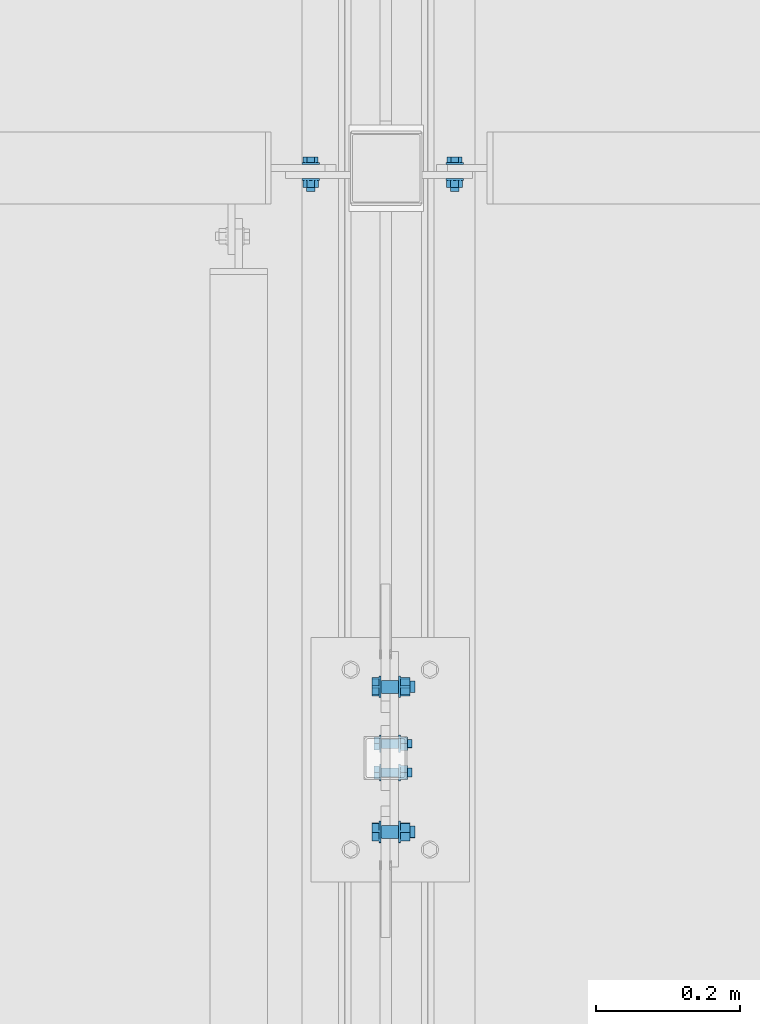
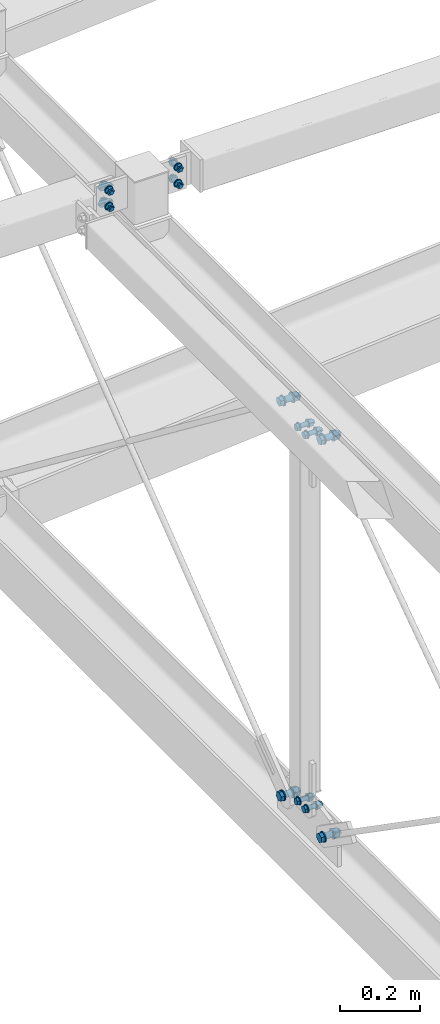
# One storey, part 242 of 271: 8 mechanical fasteners, 7 elements without a shape of their own.
"""IFC2X3 building model written with IfcOpenShell, lengths in millimetres."""

from ifc_helpers import new_model, si_unit, frame, frame_2d, origin_with_axes, origin_2d_with_axis, place, context, subcontext, project, spatial, polyline, circle_curve, parameter, trimmed, segment, composite_curve, circle, outline, extrude, source, transform, mapped, material, type_object, element, aggregate, save


model = new_model("IFC2X3")

# Units and contexts
model_context = context("Model", 3, precision=1e-05, world=origin_with_axes())
body_context = subcontext(model_context, "Body", "Model", "MODEL_VIEW")
ifc_project = project(units=[si_unit("LENGTHUNIT", "METRE", prefix="MILLI"), si_unit("AREAUNIT", "SQUARE_METRE"), si_unit("VOLUMEUNIT", "CUBIC_METRE"), si_unit("MASSUNIT", "GRAM", prefix="KILO"), si_unit("TIMEUNIT", "SECOND"), si_unit("PLANEANGLEUNIT", "RADIAN"), si_unit("SOLIDANGLEUNIT", "STERADIAN"), si_unit("THERMODYNAMICTEMPERATUREUNIT", "DEGREE_CELSIUS"), si_unit("LUMINOUSINTENSITYUNIT", "LUMEN")], contexts=[model_context])

# Site, building, storey
site_placement = place(None, origin_with_axes())
site = spatial("IfcSite", under=ifc_project, at=site_placement, Name="Undefined", CompositionType="ELEMENT")
building_placement = place(site_placement, origin_with_axes())
building = spatial("IfcBuilding", under=site, at=building_placement, Name="Undefined", CompositionType="ELEMENT")
storey_placement = place(building_placement, origin_with_axes())
storey = spatial("IfcBuildingStorey", under=building, at=storey_placement, Name="Undefined", CompositionType="ELEMENT", Elevation=0.0)

# Assembly, mechanical fastener
assembly_1_placement = place(storey_placement, origin_with_axes())
assembly_1 = element("IfcElementAssembly", 1, at=assembly_1_placement, inside=storey, AssemblyPlace="NOTDEFINED", PredefinedType="RIGID_FRAME")
ifc_material = material(Name="Undefined")
mechanical_fastener_type = type_object("IfcMechanicalFastenerType", Name="Bolt assembly")
shared_shape_1 = source(origin_with_axes(), body_context, "Body", "SweptSolid", [
    extrude(circle(Radius=9.0, at=origin_2d_with_axis()), frame((0.0, -6.1, 0.0), z_axis=(0.0, 1.0, 0.0), x_axis=(1.0, 0.0, 0.0)), (0.0, 0.0, 1.0), 12.1),
    extrude(circle(Radius=9.0, at=origin_2d_with_axis()), frame((0.0, -17.9, 0.0), z_axis=(0.0, 1.0, 0.0), x_axis=(1.0, 0.0, 0.0)), (0.0, 0.0, 1.0), 12.0),
    extrude(outline(polyline([(13.85640646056, 0.0), (6.92820323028, 12.0000000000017), (-6.92820323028, 12.0000000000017), (-13.85640646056, 0.0), (-6.92820323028, -12.0000000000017), (6.92820323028, -12.0000000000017), (13.85640646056, 0.0)])), frame((0.0, -31.0, 0.0), z_axis=(0.0, 1.0, 0.0), x_axis=(1.0, 0.0, 0.0)), (0.0, 0.0, 1.0), 10.0),
    extrude(circle(Radius=8.0, at=origin_2d_with_axis()), frame((0.0, -21.0, 0.0), z_axis=(0.0, 1.0, 0.0), x_axis=(1.0, 0.0, 0.0)), (0.0, 0.0, 1.0), 50.0),
    extrude(circle(Radius=15.0, at=origin_2d_with_axis()), frame((0.0, -21.0, 0.0), z_axis=(0.0, 1.0, 0.0), x_axis=(1.0, 0.0, 0.0)), (0.0, 0.0, 1.0), 3.0),
    extrude(circle(Radius=15.0, at=origin_2d_with_axis()), frame((0.0, 6.0, 0.0), z_axis=(0.0, 1.0, 0.0), x_axis=(1.0, 0.0, 0.0)), (0.0, 0.0, 1.0), 3.0),
    extrude(outline(polyline([(13.85640646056, 0.0), (6.92820323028, 12.0000000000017), (-6.92820323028, 12.0000000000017), (-13.85640646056, 0.0), (-6.92820323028, -12.0000000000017), (6.92820323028, -12.0000000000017), (13.85640646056, 0.0)])), frame((0.0, 9.0, 0.0), z_axis=(0.0, 1.0, 0.0), x_axis=(1.0, 0.0, 0.0)), (0.0, 0.0, 1.0), 13.0),
])
mechanical_fastener_1_placement = place(assembly_1_placement, frame((6359.37568736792, 1876.66828968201, 19933.1373577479), z_axis=(0.0, -0.570474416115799, 0.821315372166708), x_axis=(0.0, -0.821315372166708, -0.570474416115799)))
mechanical_fastener_1 = element("IfcMechanicalFastener", 2, at=mechanical_fastener_1_placement, type_object=mechanical_fastener_type, material=ifc_material, Name="Bolt assembly", NominalDiameter=16.0, NominalLength=50.0, context=body_context, shape_type="MappedRepresentation", body=[
    mapped(shared_shape_1, transform((0.0, 0.0, 0.0))),
])
aggregate(assembly_1, [mechanical_fastener_1])

assembly_2_placement = place(storey_placement, origin_with_axes())
assembly_2 = element("IfcElementAssembly", 3, at=assembly_2_placement, inside=storey, AssemblyPlace="NOTDEFINED", PredefinedType="RIGID_FRAME")
mechanical_fastener_2_placement = place(assembly_2_placement, frame((6359.37568736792, 2078.27000535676, 19928.2664440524), z_axis=(0.0, -0.609061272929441, -0.793123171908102), x_axis=(0.0, 0.793123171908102, -0.609061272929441)))
mechanical_fastener_2 = element("IfcMechanicalFastener", 4, at=mechanical_fastener_2_placement, type_object=mechanical_fastener_type, material=ifc_material, Name="Bolt assembly", NominalDiameter=16.0, NominalLength=50.0, context=body_context, shape_type="MappedRepresentation", body=[
    mapped(shared_shape_1, transform((0.0, 0.0, 0.0))),
])
aggregate(assembly_2, [mechanical_fastener_2])

assembly_3_placement = place(storey_placement, origin_with_axes())
assembly_3 = element("IfcElementAssembly", 5, at=assembly_3_placement, inside=storey, AssemblyPlace="NOTDEFINED", PredefinedType="RIGID_FRAME")
mechanical_fastener_3_placement = place(assembly_3_placement, frame((6359.37568736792, 2078.27000518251, 18720.4335563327), z_axis=(0.0, 0.609061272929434, -0.793123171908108), x_axis=(0.0, 0.793123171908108, 0.609061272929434)))
mechanical_fastener_3 = element("IfcMechanicalFastener", 6, at=mechanical_fastener_3_placement, type_object=mechanical_fastener_type, material=ifc_material, Name="Bolt assembly", NominalDiameter=16.0, NominalLength=50.0, context=body_context, shape_type="MappedRepresentation", body=[
    mapped(shared_shape_1, transform((0.0, 0.0, 0.0))),
])
aggregate(assembly_3, [mechanical_fastener_3])

assembly_4_placement = place(storey_placement, origin_with_axes())
assembly_4 = element("IfcElementAssembly", 7, at=assembly_4_placement, inside=storey, AssemblyPlace="NOTDEFINED", PredefinedType="RIGID_FRAME")
mechanical_fastener_4_placement = place(assembly_4_placement, frame((6359.37568736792, 1876.30836518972, 18715.8126414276), z_axis=(0.0, 0.570474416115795, 0.821315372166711), x_axis=(0.0, -0.821315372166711, 0.570474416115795)))
mechanical_fastener_4 = element("IfcMechanicalFastener", 8, at=mechanical_fastener_4_placement, type_object=mechanical_fastener_type, material=ifc_material, Name="Bolt assembly", NominalDiameter=16.0, NominalLength=50.0, context=body_context, shape_type="MappedRepresentation", body=[
    mapped(shared_shape_1, transform((0.0, 0.0, 0.0))),
])
aggregate(assembly_4, [mechanical_fastener_4])

assembly_5_placement = place(storey_placement, origin_with_axes())
assembly_5 = element("IfcElementAssembly", 9, at=assembly_5_placement, inside=storey, AssemblyPlace="NOTDEFINED", PredefinedType="RIGID_FRAME")
shared_shape_2 = source(origin_with_axes(), body_context, "Body", "SweptSolid", [
    extrude(circle(Radius=6.5, at=origin_2d_with_axis()), frame((0.0, -5.1, 0.0), z_axis=(0.0, 1.0, 0.0), x_axis=(1.0, 0.0, 0.0)), (0.0, 0.0, 1.0), 10.1),
    extrude(circle(Radius=6.5, at=origin_2d_with_axis()), frame((0.0, -14.9000000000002, 0.0), z_axis=(0.0, 1.0, 0.0), x_axis=(1.0, 0.0, 0.0)), (0.0, 0.0, 1.0), 10.0),
    extrude(outline(polyline([(10.39230484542, 0.0), (5.19615242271, 9.00000000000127), (-5.19615242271, 9.00000000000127), (-10.39230484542, 0.0), (-5.19615242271, -9.00000000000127), (5.19615242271, -9.00000000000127), (10.39230484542, 0.0)])), frame((0.0, -25.0000000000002, 0.0), z_axis=(0.0, 1.0, 0.0), x_axis=(1.0, 0.0, 0.0)), (0.0, 0.0, 1.0), 7.5),
    extrude(circle(Radius=6.0, at=origin_2d_with_axis()), frame((0.0, -17.5000000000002, 0.0), z_axis=(0.0, 1.0, 0.0), x_axis=(1.0, 0.0, 0.0)), (0.0, 0.0, 1.0), 40.0),
    extrude(circle(Radius=12.0, at=origin_2d_with_axis()), frame((0.0, -17.5000000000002, 0.0), z_axis=(0.0, 1.0, 0.0), x_axis=(1.0, 0.0, 0.0)), (0.0, 0.0, 1.0), 2.5),
    extrude(circle(Radius=12.0, at=origin_2d_with_axis()), frame((0.0, 5.00000000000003, 0.0), z_axis=(0.0, 1.0, 0.0), x_axis=(1.0, 0.0, 0.0)), (0.0, 0.0, 1.0), 2.5),
    extrude(outline(polyline([(10.96965511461, 0.0), (5.484827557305, 9.50000000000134), (-5.484827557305, 9.50000000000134), (-10.96965511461, 0.0), (-5.484827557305, -9.50000000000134), (5.484827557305, -9.50000000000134), (10.96965511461, 0.0)])), frame((0.0, 7.50000000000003, 0.0), z_axis=(0.0, 1.0, 0.0), x_axis=(1.0, 0.0, 0.0)), (0.0, 0.0, 1.0), 10.0),
])
mechanical_fastener_5_placement = place(assembly_5_placement, frame((6443.37568736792, 2789.32498425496, 20154.3499999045), z_axis=(0.0, 0.0, -1.0), x_axis=(1.0, 0.0, 0.0)))
mechanical_fastener_5 = element("IfcMechanicalFastener", 10, at=mechanical_fastener_5_placement, type_object=mechanical_fastener_type, material=ifc_material, Name="Bolt assembly", NominalDiameter=12.0, NominalLength=40.0, context=body_context, shape_type="MappedRepresentation", body=[
    mapped(shared_shape_2, transform((0.0, 0.0, -25.0))),
    mapped(shared_shape_2, transform((0.0, 0.0, 25.0))),
])
aggregate(assembly_5, [mechanical_fastener_5])

# Assembly, mechanical fasteners
assembly_6_placement = place(storey_placement, origin_with_axes())
assembly_6 = element("IfcElementAssembly", 11, at=assembly_6_placement, inside=storey, AssemblyPlace="NOTDEFINED", PredefinedType="RIGID_FRAME")
shared_shape_3 = source(origin_with_axes(), body_context, "Body", "SweptSolid", [
    extrude(circle(Radius=6.5, at=origin_2d_with_axis()), frame((0.0, -6.1, 0.0), z_axis=(0.0, 1.0, 0.0), x_axis=(1.0, 0.0, 0.0)), (0.0, 0.0, 1.0), 12.1),
    extrude(circle(Radius=6.5, at=origin_2d_with_axis()), frame((0.0, -17.9, 0.0), z_axis=(0.0, 1.0, 0.0), x_axis=(1.0, 0.0, 0.0)), (0.0, 0.0, 1.0), 12.0),
    extrude(outline(polyline([(10.39230484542, 0.0), (5.19615242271, 9.00000000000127), (-5.19615242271, 9.00000000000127), (-10.39230484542, 0.0), (-5.19615242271, -9.00000000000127), (5.19615242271, -9.00000000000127), (10.39230484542, 0.0)])), frame((0.0, -28.0, 0.0), z_axis=(0.0, 1.0, 0.0), x_axis=(1.0, 0.0, 0.0)), (0.0, 0.0, 1.0), 7.5),
    extrude(circle(Radius=6.0, at=origin_2d_with_axis()), frame((0.0, -20.5, 0.0), z_axis=(0.0, 1.0, 0.0), x_axis=(1.0, 0.0, 0.0)), (0.0, 0.0, 1.0), 45.0),
    extrude(circle(Radius=12.0, at=origin_2d_with_axis()), frame((0.0, -20.5, 0.0), z_axis=(0.0, 1.0, 0.0), x_axis=(1.0, 0.0, 0.0)), (0.0, 0.0, 1.0), 2.5),
    extrude(circle(Radius=12.0, at=origin_2d_with_axis()), frame((0.0, 6.0, 0.0), z_axis=(0.0, 1.0, 0.0), x_axis=(1.0, 0.0, 0.0)), (0.0, 0.0, 1.0), 2.5),
    extrude(outline(polyline([(10.96965511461, 0.0), (5.484827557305, 9.50000000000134), (-5.484827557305, 9.50000000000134), (-10.96965511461, 0.0), (-5.484827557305, -9.50000000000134), (5.484827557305, -9.50000000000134), (10.96965511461, 0.0)])), frame((0.0, 8.5, 0.0), z_axis=(0.0, 1.0, 0.0), x_axis=(1.0, 0.0, 0.0)), (0.0, 0.0, 1.0), 10.0),
])
mechanical_fastener_6_placement = place(assembly_6_placement, frame((6359.37568736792, 1979.19355050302, 19896.8242735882), z_axis=(0.0, -1.0, 0.0), x_axis=(0.0, 0.0, -1.0)))
mechanical_fastener_6 = element("IfcMechanicalFastener", 12, at=mechanical_fastener_6_placement, type_object=mechanical_fastener_type, material=ifc_material, Name="Bolt assembly", NominalDiameter=12.0, NominalLength=45.0, context=body_context, shape_type="MappedRepresentation", body=[
    mapped(shared_shape_3, transform((0.0, 0.0, -20.0))),
    mapped(shared_shape_3, transform((0.0, 0.0, 20.0))),
])
mechanical_fastener_7_placement = place(assembly_6_placement, frame((6359.37568736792, 1979.19355050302, 18752.099999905), z_axis=(0.0, 1.0, 0.0), x_axis=(0.0, 0.0, 1.0)))
mechanical_fastener_7 = element("IfcMechanicalFastener", 13, at=mechanical_fastener_7_placement, type_object=mechanical_fastener_type, material=ifc_material, Name="Bolt assembly", NominalDiameter=12.0, NominalLength=45.0, context=body_context, shape_type="MappedRepresentation", body=[
    mapped(shared_shape_3, transform((0.0, 0.0, -20.0))),
    mapped(shared_shape_3, transform((0.0, 0.0, 20.0))),
])
aggregate(assembly_6, [mechanical_fastener_6, mechanical_fastener_7])

# Assembly, mechanical fastener
assembly_7_placement = place(storey_placement, origin_with_axes())
assembly_7 = element("IfcElementAssembly", 14, at=assembly_7_placement, inside=storey, AssemblyPlace="NOTDEFINED", PredefinedType="RIGID_FRAME")
shared_shape_4 = source(origin_with_axes(), body_context, "Body", "SweptSolid", [
    extrude(circle(Radius=6.5, at=origin_2d_with_axis()), frame((0.0, -5.1, 0.0), z_axis=(0.0, 1.0, 0.0), x_axis=(1.0, 0.0, 0.0)), (0.0, 0.0, 1.0), 10.1),
    extrude(outline(composite_curve([segment(polyline([(-13.5, 6.5), (13.5, 6.5)]), True, "CONTINUOUS"), segment(trimmed(circle_curve(frame_2d((13.5, 0.0), x_axis=(0.0, 1.0)), 6.5), [parameter(0.0)], [parameter(3.14159265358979)], False, "PARAMETER"), True, "CONTINUOUS"), segment(polyline([(13.5, -6.5), (-13.5, -6.5)]), True, "CONTINUOUS"), segment(trimmed(circle_curve(frame_2d((-13.5, 0.0), x_axis=(0.0, -1.0)), 6.5), [parameter(0.0)], [parameter(3.14159265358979)], False, "PARAMETER"), True, "DISCONTINUOUS")], self_intersect=False)), frame((0.0, -14.9000000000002, 0.0), z_axis=(0.0, 1.0, 0.0), x_axis=(1.0, 0.0, 0.0)), (0.0, 0.0, 1.0), 10.0),
    extrude(outline(polyline([(10.39230484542, 0.0), (5.19615242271, 9.00000000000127), (-5.19615242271, 9.00000000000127), (-10.39230484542, 0.0), (-5.19615242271, -9.00000000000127), (5.19615242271, -9.00000000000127), (10.39230484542, 0.0)])), frame((0.0, -25.0000000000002, 0.0), z_axis=(0.0, 1.0, 0.0), x_axis=(1.0, 0.0, 0.0)), (0.0, 0.0, 1.0), 7.5),
    extrude(circle(Radius=6.0, at=origin_2d_with_axis()), frame((0.0, -17.5000000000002, 0.0), z_axis=(0.0, 1.0, 0.0), x_axis=(1.0, 0.0, 0.0)), (0.0, 0.0, 1.0), 40.0),
    extrude(circle(Radius=12.0, at=origin_2d_with_axis()), frame((0.0, -17.5000000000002, 0.0), z_axis=(0.0, 1.0, 0.0), x_axis=(1.0, 0.0, 0.0)), (0.0, 0.0, 1.0), 2.5),
    extrude(circle(Radius=12.0, at=origin_2d_with_axis()), frame((0.0, 5.00000000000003, 0.0), z_axis=(0.0, 1.0, 0.0), x_axis=(1.0, 0.0, 0.0)), (0.0, 0.0, 1.0), 2.5),
    extrude(outline(polyline([(10.96965511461, 0.0), (5.484827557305, 9.50000000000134), (-5.484827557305, 9.50000000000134), (-10.96965511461, 0.0), (-5.484827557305, -9.50000000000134), (5.484827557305, -9.50000000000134), (10.96965511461, 0.0)])), frame((0.0, 7.50000000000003, 0.0), z_axis=(0.0, 1.0, 0.0), x_axis=(1.0, 0.0, 0.0)), (0.0, 0.0, 1.0), 10.0),
])
mechanical_fastener_8_placement = place(assembly_7_placement, frame((6243.37568736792, 2789.32498425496, 20154.3499999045), z_axis=(0.0, 0.0, 1.0), x_axis=(-1.0, 0.0, 1.38777878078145e-17)))
mechanical_fastener_8 = element("IfcMechanicalFastener", 15, at=mechanical_fastener_8_placement, type_object=mechanical_fastener_type, material=ifc_material, Name="Bolt assembly", NominalDiameter=12.0, NominalLength=40.0, context=body_context, shape_type="MappedRepresentation", body=[
    mapped(shared_shape_4, transform((0.0, 0.0, -25.0))),
    mapped(shared_shape_4, transform((0.0, 0.0, 25.0))),
])
aggregate(assembly_7, [mechanical_fastener_8])

save(model, "model.ifc")
